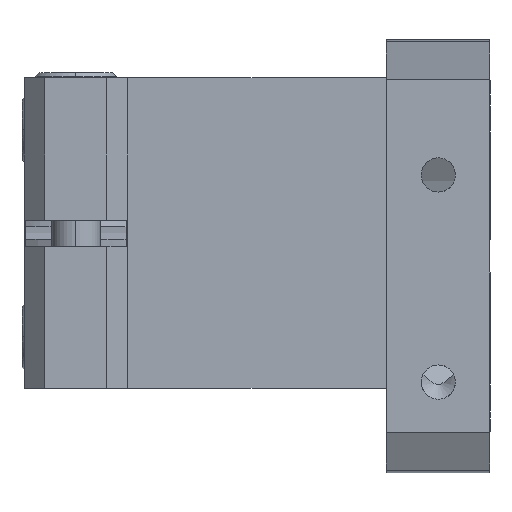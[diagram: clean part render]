
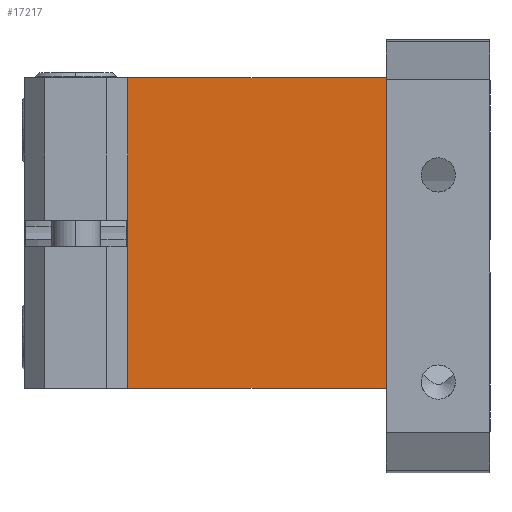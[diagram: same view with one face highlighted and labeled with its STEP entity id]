
A CAD part, left-side view. The second image highlights one B-rep face of the part: STEP entity #17217.
In plain terms, the highlighted planar face has unit normal (-1, 0, 0) as drawn and (0, 0, -1) by its records, which use the part's own axes.
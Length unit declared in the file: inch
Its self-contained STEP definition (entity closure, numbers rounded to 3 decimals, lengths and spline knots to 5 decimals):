
#394 = CARTESIAN_POINT ( 'NONE',  ( 1.5, 1.25, -0.375 ) ) ;
#397 = CARTESIAN_POINT ( 'NONE',  ( 0., 1.25, -0.375 ) ) ;
#17217 = ADVANCED_FACE ( 'NONE', ( #20426 ), #40851, .F. ) ;
#20426 = FACE_OUTER_BOUND ( 'NONE', #20732, .T. ) ;
#20732 = EDGE_LOOP ( 'NONE', ( #49538, #49539, #49540, #49541 ) ) ;
#24866 = AXIS2_PLACEMENT_3D ( 'NONE', #40850, #40849, #40847 ) ;
#26201 = LINE ( 'NONE', #30215, #26202 ) ;
#26202 = VECTOR ( 'NONE', #30214, 39.37008 ) ;
#26595 = LINE ( 'NONE', #42330, #26596 ) ;
#26596 = VECTOR ( 'NONE', #42329, 39.37008 ) ;
#26603 = LINE ( 'NONE', #42322, #26604 ) ;
#26604 = VECTOR ( 'NONE', #42321, 39.37008 ) ;
#26605 = LINE ( 'NONE', #42320, #26606 ) ;
#26606 = VECTOR ( 'NONE', #42319, 39.37008 ) ;
#30214 = DIRECTION ( 'NONE',  ( -1., 0., 0. ) ) ;
#30215 = CARTESIAN_POINT ( 'NONE',  ( 0., 1.25, -0.375 ) ) ;
#40847 = DIRECTION ( 'NONE',  ( 1., 0., 0. ) ) ;
#40849 = DIRECTION ( 'NONE',  ( 0., 0., 1. ) ) ;
#40850 = CARTESIAN_POINT ( 'NONE',  ( 0., 1.25, -0.375 ) ) ;
#40851 = PLANE ( 'NONE',  #24866 ) ;
#42319 = DIRECTION ( 'NONE',  ( -1., 0., 0. ) ) ;
#42320 = CARTESIAN_POINT ( 'NONE',  ( 0., 0., -0.375 ) ) ;
#42321 = DIRECTION ( 'NONE',  ( 0., -1., 0. ) ) ;
#42322 = CARTESIAN_POINT ( 'NONE',  ( 1.5, 1.25, -0.375 ) ) ;
#42329 = DIRECTION ( 'NONE',  ( 0., -1., 0. ) ) ;
#42330 = CARTESIAN_POINT ( 'NONE',  ( 0., 1.25, -0.375 ) ) ;
#49538 = ORIENTED_EDGE ( 'NONE', *, *, #50892, .T. ) ;
#49539 = ORIENTED_EDGE ( 'NONE', *, *, #50887, .F. ) ;
#49540 = ORIENTED_EDGE ( 'NONE', *, *, #50332, .F. ) ;
#49541 = ORIENTED_EDGE ( 'NONE', *, *, #50891, .T. ) ;
#50332 = EDGE_CURVE ( 'NONE', #64776, #64779, #26201, .T. ) ;
#50887 = EDGE_CURVE ( 'NONE', #64779, #64562, #26595, .T. ) ;
#50891 = EDGE_CURVE ( 'NONE', #64776, #64559, #26603, .T. ) ;
#50892 = EDGE_CURVE ( 'NONE', #64559, #64562, #26605, .T. ) ;
#64559 = VERTEX_POINT ( 'NONE', #67081 ) ;
#64562 = VERTEX_POINT ( 'NONE', #67084 ) ;
#64776 = VERTEX_POINT ( 'NONE', #394 ) ;
#64779 = VERTEX_POINT ( 'NONE', #397 ) ;
#67081 = CARTESIAN_POINT ( 'NONE',  ( 1.5, 0., -0.375 ) ) ;
#67084 = CARTESIAN_POINT ( 'NONE',  ( 0., 0., -0.375 ) ) ;
